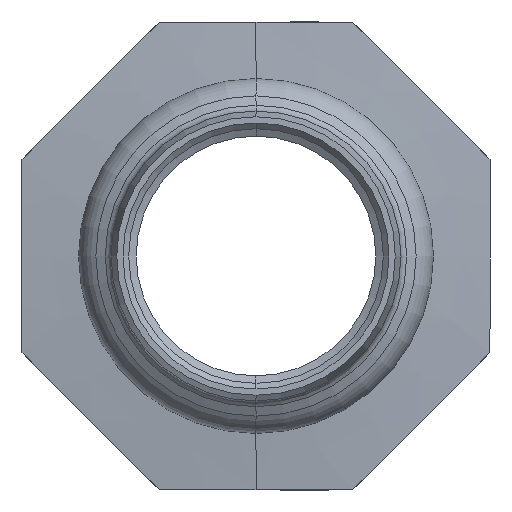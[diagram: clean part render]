
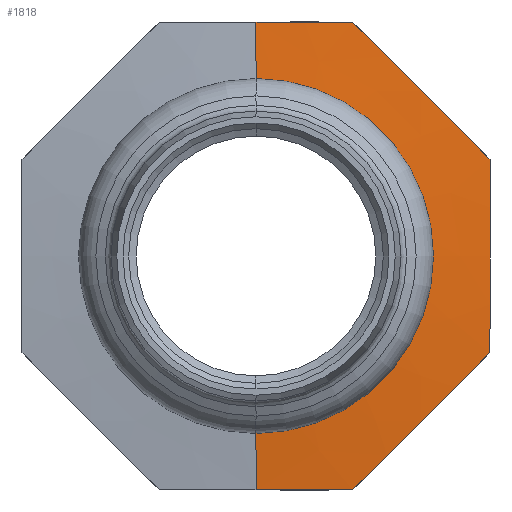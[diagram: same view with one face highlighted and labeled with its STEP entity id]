
A CAD part, front view. The second image highlights one B-rep face of the part: STEP entity #1818.
In plain terms, the highlighted conical face has half-angle 85 degrees and reference radius 13.613 mm.
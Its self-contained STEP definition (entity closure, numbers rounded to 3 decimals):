
#28 = DIRECTION ( 'NONE',  ( 0., 0., 1. ) ) ;
#29 = VERTEX_POINT ( 'NONE', #1588 ) ;
#124 = DIRECTION ( 'NONE',  ( 0., 0., -1. ) ) ;
#180 = CARTESIAN_POINT ( 'NONE',  ( 0., 22.58, 0. ) ) ;
#225 = EDGE_CURVE ( 'NONE', #673, #412, #1845, .T. ) ;
#236 = LINE ( 'NONE', #1053, #1350 ) ;
#237 = DIRECTION ( 'NONE',  ( 0., -1., 0. ) ) ;
#247 = EDGE_LOOP ( 'NONE', ( #1307, #1672, #1675, #294, #1413, #266, #282, #1834 ) ) ;
#259 = AXIS2_PLACEMENT_3D ( 'NONE', #180, #512, #28 ) ;
#263 = CARTESIAN_POINT ( 'NONE',  ( 20.5, 23.33, 8.491 ) ) ;
#266 = ORIENTED_EDGE ( 'NONE', *, *, #903, .F. ) ;
#270 = CARTESIAN_POINT ( 'NONE',  ( 18.499, 23.235, 10.493 ) ) ;
#278 = CARTESIAN_POINT ( 'NONE',  ( 14.496, 23.129, 14.496 ) ) ;
#282 = ORIENTED_EDGE ( 'NONE', *, *, #841, .F. ) ;
#294 = ORIENTED_EDGE ( 'NONE', *, *, #474, .F. ) ;
#295 = CARTESIAN_POINT ( 'NONE',  ( 8.491, 23.33, 20.5 ) ) ;
#323 = CARTESIAN_POINT ( 'NONE',  ( 10.493, 23.235, 18.499 ) ) ;
#340 = CARTESIAN_POINT ( 'NONE',  ( 20.5, 23.182, 2.833 ) ) ;
#344 = CARTESIAN_POINT ( 'NONE',  ( 8.491, 23.33, 20.5 ) ) ;
#412 = VERTEX_POINT ( 'NONE', #1832 ) ;
#474 = EDGE_CURVE ( 'NONE', #412, #745, #992, .T. ) ;
#512 = DIRECTION ( 'NONE',  ( 0., 1., 0. ) ) ;
#561 = CARTESIAN_POINT ( 'NONE',  ( 20.5, 23.33, 8.491 ) ) ;
#619 = CARTESIAN_POINT ( 'NONE',  ( 8.491, 23.33, 20.5 ) ) ;
#628 = CARTESIAN_POINT ( 'NONE',  ( 5.662, 23.235, 20.5 ) ) ;
#632 = CARTESIAN_POINT ( 'NONE',  ( 5.662, 23.235, -20.5 ) ) ;
#639 = CARTESIAN_POINT ( 'NONE',  ( 2.831, 23.182, -20.5 ) ) ;
#673 = VERTEX_POINT ( 'NONE', #561 ) ;
#689 = CIRCLE ( 'NONE', #1853, 13.613 ) ;
#697 = CARTESIAN_POINT ( 'NONE',  ( 2.831, 23.182, 20.5 ) ) ;
#745 = VERTEX_POINT ( 'NONE', #1318 ) ;
#748 = CARTESIAN_POINT ( 'NONE',  ( 20.5, 23.235, 5.662 ) ) ;
#770 = CARTESIAN_POINT ( 'NONE',  ( 20.5, 23.33, 8.491 ) ) ;
#780 = CARTESIAN_POINT ( 'NONE',  ( 20.5, 23.182, -2.828 ) ) ;
#783 = CARTESIAN_POINT ( 'NONE',  ( 20.5, 23.235, -5.661 ) ) ;
#791 = CARTESIAN_POINT ( 'NONE',  ( 20.5, 23.33, -8.491 ) ) ;
#792 = CARTESIAN_POINT ( 'NONE',  ( 0., 23.182, 20.5 ) ) ;
#841 = EDGE_CURVE ( 'NONE', #1398, #1503, #1475, .T. ) ;
#851 = CARTESIAN_POINT ( 'NONE',  ( 20.5, 23.33, -8.491 ) ) ;
#903 = EDGE_CURVE ( 'NONE', #1503, #673, #972, .T. ) ;
#914 = CONICAL_SURFACE ( 'NONE', #259, 13.613, 1.484 ) ;
#920 = DIRECTION ( 'NONE',  ( 0., 0.087, 0.996 ) ) ;
#965 = FACE_OUTER_BOUND ( 'NONE', #247, .T. ) ;
#972 = B_SPLINE_CURVE_WITH_KNOTS ( 'NONE', 3,
 ( #295, #323, #278, #270, #263 ),
 .UNSPECIFIED., .F., .F.,
 ( 4, 1, 4 ),
 ( 0., 0.008, 0.017 ),
 .UNSPECIFIED. ) ;
#992 = B_SPLINE_CURVE_WITH_KNOTS ( 'NONE', 3,
 ( #851, #1051, #1199, #1364, #1139 ),
 .UNSPECIFIED., .F., .F.,
 ( 4, 1, 4 ),
 ( 0., 0.008, 0.017 ),
 .UNSPECIFIED. ) ;
#1010 = B_SPLINE_CURVE_WITH_KNOTS ( 'NONE', 3,
 ( #1801, #632, #639, #1077 ),
 .UNSPECIFIED., .F., .F.,
 ( 4, 4 ),
 ( 0.037, 0.046 ),
 .UNSPECIFIED. ) ;
#1051 = CARTESIAN_POINT ( 'NONE',  ( 18.499, 23.235, -10.493 ) ) ;
#1053 = CARTESIAN_POINT ( 'NONE',  ( 0., 22.58, 13.613 ) ) ;
#1071 = CARTESIAN_POINT ( 'NONE',  ( 0., 22.58, -13.613 ) ) ;
#1077 = CARTESIAN_POINT ( 'NONE',  ( 0., 23.182, -20.5 ) ) ;
#1088 = CARTESIAN_POINT ( 'NONE',  ( 0., 22.58, -13.613 ) ) ;
#1139 = CARTESIAN_POINT ( 'NONE',  ( 8.491, 23.33, -20.5 ) ) ;
#1159 = CARTESIAN_POINT ( 'NONE',  ( 0., 22.58, 0. ) ) ;
#1199 = CARTESIAN_POINT ( 'NONE',  ( 14.496, 23.129, -14.496 ) ) ;
#1228 = VERTEX_POINT ( 'NONE', #1584 ) ;
#1253 = DIRECTION ( 'NONE',  ( 0., 0.087, -0.996 ) ) ;
#1307 = ORIENTED_EDGE ( 'NONE', *, *, #1440, .F. ) ;
#1318 = CARTESIAN_POINT ( 'NONE',  ( 8.491, 23.33, -20.5 ) ) ;
#1350 = VECTOR ( 'NONE', #920, 1000. ) ;
#1364 = CARTESIAN_POINT ( 'NONE',  ( 10.493, 23.235, -18.499 ) ) ;
#1398 = VERTEX_POINT ( 'NONE', #1620 ) ;
#1413 = ORIENTED_EDGE ( 'NONE', *, *, #225, .F. ) ;
#1440 = EDGE_CURVE ( 'NONE', #1679, #1228, #689, .T. ) ;
#1475 = B_SPLINE_CURVE_WITH_KNOTS ( 'NONE', 3,
 ( #792, #697, #628, #619 ),
 .UNSPECIFIED., .F., .F.,
 ( 4, 4 ),
 ( 0.028, 0.036 ),
 .UNSPECIFIED. ) ;
#1494 = LINE ( 'NONE', #1071, #1837 ) ;
#1503 = VERTEX_POINT ( 'NONE', #344 ) ;
#1584 = CARTESIAN_POINT ( 'NONE',  ( 0., 22.58, 13.613 ) ) ;
#1588 = CARTESIAN_POINT ( 'NONE',  ( 0., 23.182, -20.5 ) ) ;
#1620 = CARTESIAN_POINT ( 'NONE',  ( 0., 23.182, 20.5 ) ) ;
#1672 = ORIENTED_EDGE ( 'NONE', *, *, #1694, .T. ) ;
#1675 = ORIENTED_EDGE ( 'NONE', *, *, #1790, .F. ) ;
#1679 = VERTEX_POINT ( 'NONE', #1088 ) ;
#1694 = EDGE_CURVE ( 'NONE', #1679, #29, #1494, .T. ) ;
#1790 = EDGE_CURVE ( 'NONE', #745, #29, #1010, .T. ) ;
#1801 = CARTESIAN_POINT ( 'NONE',  ( 8.491, 23.33, -20.5 ) ) ;
#1802 = EDGE_CURVE ( 'NONE', #1228, #1398, #236, .T. ) ;
#1818 = ADVANCED_FACE ( 'NONE', ( #965 ), #914, .T. ) ;
#1832 = CARTESIAN_POINT ( 'NONE',  ( 20.5, 23.33, -8.491 ) ) ;
#1834 = ORIENTED_EDGE ( 'NONE', *, *, #1802, .F. ) ;
#1837 = VECTOR ( 'NONE', #1253, 1000. ) ;
#1845 = B_SPLINE_CURVE_WITH_KNOTS ( 'NONE', 3,
 ( #770, #748, #340, #780, #783, #791 ),
 .UNSPECIFIED., .F., .F.,
 ( 4, 2, 4 ),
 ( 0.037, 0.046, 0.054 ),
 .UNSPECIFIED. ) ;
#1853 = AXIS2_PLACEMENT_3D ( 'NONE', #1159, #237, #124 ) ;
